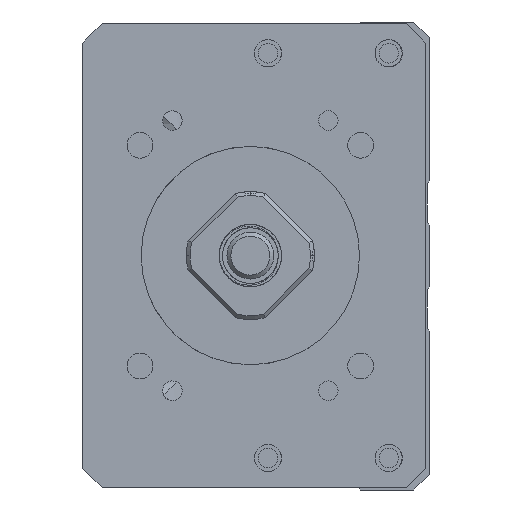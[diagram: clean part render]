
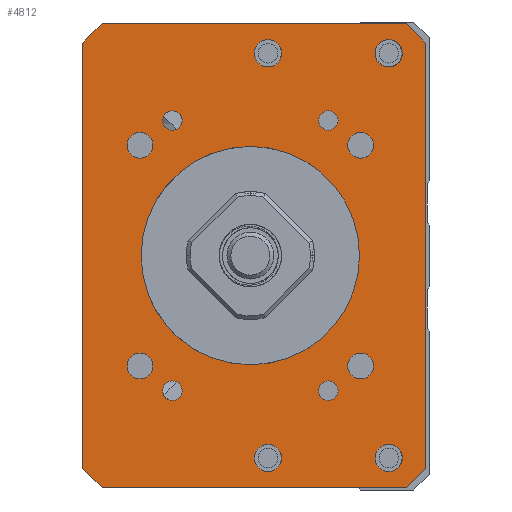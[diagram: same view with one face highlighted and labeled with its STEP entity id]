
A CAD part, left-side view. The second image highlights one B-rep face of the part: STEP entity #4812.
In plain terms, the highlighted planar face has unit normal (-1, 0, 0).
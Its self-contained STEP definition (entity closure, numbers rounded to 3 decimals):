
#3911=FACE_BOUND('',#6320,.T.);
#3912=FACE_BOUND('',#6321,.T.);
#3913=FACE_BOUND('',#6322,.T.);
#3914=FACE_BOUND('',#6323,.T.);
#3915=FACE_BOUND('',#6324,.T.);
#3916=FACE_BOUND('',#6325,.T.);
#3917=FACE_BOUND('',#6326,.T.);
#3918=FACE_BOUND('',#6327,.T.);
#3919=FACE_BOUND('',#6328,.T.);
#3920=FACE_BOUND('',#6329,.T.);
#3921=FACE_BOUND('',#6330,.T.);
#3922=FACE_BOUND('',#6331,.T.);
#3923=FACE_BOUND('',#6332,.T.);
#3924=FACE_BOUND('',#6333,.T.);
#4270=CIRCLE('',#13880,14.);
#4279=CIRCLE('',#13891,1.65);
#4280=CIRCLE('',#13892,1.65);
#4281=CIRCLE('',#13893,1.65);
#4282=CIRCLE('',#13894,1.65);
#4283=CIRCLE('',#13895,1.25);
#4284=CIRCLE('',#13896,1.75);
#4285=CIRCLE('',#13897,1.25);
#4286=CIRCLE('',#13898,1.75);
#4287=CIRCLE('',#13899,1.25);
#4288=CIRCLE('',#13900,1.75);
#4289=CIRCLE('',#13901,1.75);
#4290=CIRCLE('',#13902,1.25);
#4812=ADVANCED_FACE('',(#3911,#3912,#3913,#3914,#3915,#3916,#3917,#3918,
#3919,#3920,#3921,#3922,#3923,#3924),#5266,.F.);
#5266=PLANE('',#13903);
#6320=EDGE_LOOP('',(#8574));
#6321=EDGE_LOOP('',(#8575));
#6322=EDGE_LOOP('',(#8576));
#6323=EDGE_LOOP('',(#8577));
#6324=EDGE_LOOP('',(#8578));
#6325=EDGE_LOOP('',(#8579));
#6326=EDGE_LOOP('',(#8580));
#6327=EDGE_LOOP('',(#8581));
#6328=EDGE_LOOP('',(#8582));
#6329=EDGE_LOOP('',(#8583,#8584,#8585,#8586,#8587,#8588,#8589,#8590));
#6330=EDGE_LOOP('',(#8591));
#6331=EDGE_LOOP('',(#8592));
#6332=EDGE_LOOP('',(#8593));
#6333=EDGE_LOOP('',(#8594));
#8574=ORIENTED_EDGE('',*,*,#11225,.F.);
#8575=ORIENTED_EDGE('',*,*,#11226,.F.);
#8576=ORIENTED_EDGE('',*,*,#11227,.F.);
#8577=ORIENTED_EDGE('',*,*,#11228,.F.);
#8578=ORIENTED_EDGE('',*,*,#11229,.F.);
#8579=ORIENTED_EDGE('',*,*,#11230,.T.);
#8580=ORIENTED_EDGE('',*,*,#11231,.F.);
#8581=ORIENTED_EDGE('',*,*,#11232,.F.);
#8582=ORIENTED_EDGE('',*,*,#11233,.F.);
#8583=ORIENTED_EDGE('',*,*,#11222,.T.);
#8584=ORIENTED_EDGE('',*,*,#11234,.T.);
#8585=ORIENTED_EDGE('',*,*,#11235,.F.);
#8586=ORIENTED_EDGE('',*,*,#11236,.T.);
#8587=ORIENTED_EDGE('',*,*,#11237,.F.);
#8588=ORIENTED_EDGE('',*,*,#11238,.T.);
#8589=ORIENTED_EDGE('',*,*,#11239,.T.);
#8590=ORIENTED_EDGE('',*,*,#11240,.T.);
#8591=ORIENTED_EDGE('',*,*,#11241,.F.);
#8592=ORIENTED_EDGE('',*,*,#11242,.F.);
#8593=ORIENTED_EDGE('',*,*,#11243,.F.);
#8594=ORIENTED_EDGE('',*,*,#11202,.F.);
#9977=VERTEX_POINT('',#19575);
#9997=VERTEX_POINT('',#19635);
#9998=VERTEX_POINT('',#19637);
#10000=VERTEX_POINT('',#19643);
#10001=VERTEX_POINT('',#19645);
#10002=VERTEX_POINT('',#19647);
#10003=VERTEX_POINT('',#19649);
#10004=VERTEX_POINT('',#19651);
#10005=VERTEX_POINT('',#19653);
#10006=VERTEX_POINT('',#19655);
#10007=VERTEX_POINT('',#19657);
#10008=VERTEX_POINT('',#19659);
#10009=VERTEX_POINT('',#19661);
#10010=VERTEX_POINT('',#19663);
#10011=VERTEX_POINT('',#19665);
#10012=VERTEX_POINT('',#19667);
#10013=VERTEX_POINT('',#19669);
#10014=VERTEX_POINT('',#19671);
#10015=VERTEX_POINT('',#19674);
#10016=VERTEX_POINT('',#19676);
#10017=VERTEX_POINT('',#19678);
#11202=EDGE_CURVE('',#9977,#9977,#4270,.T.);
#11222=EDGE_CURVE('',#9998,#9997,#12258,.T.);
#11225=EDGE_CURVE('',#10000,#10000,#4279,.T.);
#11226=EDGE_CURVE('',#10001,#10001,#4280,.T.);
#11227=EDGE_CURVE('',#10002,#10002,#4281,.T.);
#11228=EDGE_CURVE('',#10003,#10003,#4282,.T.);
#11229=EDGE_CURVE('',#10004,#10004,#4283,.T.);
#11230=EDGE_CURVE('',#10005,#10005,#4284,.T.);
#11231=EDGE_CURVE('',#10006,#10006,#4285,.T.);
#11232=EDGE_CURVE('',#10007,#10007,#4286,.T.);
#11233=EDGE_CURVE('',#10008,#10008,#4287,.T.);
#11234=EDGE_CURVE('',#9997,#10009,#12260,.T.);
#11235=EDGE_CURVE('',#10010,#10009,#12261,.T.);
#11236=EDGE_CURVE('',#10010,#10011,#12262,.T.);
#11237=EDGE_CURVE('',#10012,#10011,#12263,.T.);
#11238=EDGE_CURVE('',#10012,#10013,#12264,.T.);
#11239=EDGE_CURVE('',#10013,#10014,#12265,.T.);
#11240=EDGE_CURVE('',#10014,#9998,#12266,.T.);
#11241=EDGE_CURVE('',#10015,#10015,#4288,.T.);
#11242=EDGE_CURVE('',#10016,#10016,#4289,.T.);
#11243=EDGE_CURVE('',#10017,#10017,#4290,.T.);
#12258=LINE('',#19636,#13079);
#12260=LINE('',#19660,#13081);
#12261=LINE('',#19662,#13082);
#12262=LINE('',#19664,#13083);
#12263=LINE('',#19666,#13084);
#12264=LINE('',#19668,#13085);
#12265=LINE('',#19670,#13086);
#12266=LINE('',#19672,#13087);
#13079=VECTOR('',#16210,1.);
#13081=VECTOR('',#16234,1.);
#13082=VECTOR('',#16235,1.);
#13083=VECTOR('',#16236,1.);
#13084=VECTOR('',#16237,1.);
#13085=VECTOR('',#16238,1.);
#13086=VECTOR('',#16239,1.);
#13087=VECTOR('',#16240,1.);
#13880=AXIS2_PLACEMENT_3D('',#19574,#16184,#16185);
#13891=AXIS2_PLACEMENT_3D('',#19642,#16216,#16217);
#13892=AXIS2_PLACEMENT_3D('',#19644,#16218,#16219);
#13893=AXIS2_PLACEMENT_3D('',#19646,#16220,#16221);
#13894=AXIS2_PLACEMENT_3D('',#19648,#16222,#16223);
#13895=AXIS2_PLACEMENT_3D('',#19650,#16224,#16225);
#13896=AXIS2_PLACEMENT_3D('',#19652,#16226,#16227);
#13897=AXIS2_PLACEMENT_3D('',#19654,#16228,#16229);
#13898=AXIS2_PLACEMENT_3D('',#19656,#16230,#16231);
#13899=AXIS2_PLACEMENT_3D('',#19658,#16232,#16233);
#13900=AXIS2_PLACEMENT_3D('',#19673,#16241,#16242);
#13901=AXIS2_PLACEMENT_3D('',#19675,#16243,#16244);
#13902=AXIS2_PLACEMENT_3D('',#19677,#16245,#16246);
#13903=AXIS2_PLACEMENT_3D('',#19679,#16247,#16248);
#16184=DIRECTION('',(-1.,0.,0.));
#16185=DIRECTION('',(0.,1.,0.));
#16210=DIRECTION('',(0.,0.,-1.));
#16216=DIRECTION('',(-1.,0.,0.));
#16217=DIRECTION('',(0.,0.,1.));
#16218=DIRECTION('',(-1.,0.,0.));
#16219=DIRECTION('',(0.,0.,1.));
#16220=DIRECTION('',(-1.,0.,0.));
#16221=DIRECTION('',(0.,0.,1.));
#16222=DIRECTION('',(-1.,0.,0.));
#16223=DIRECTION('',(0.,0.,1.));
#16224=DIRECTION('',(-1.,0.,0.));
#16225=DIRECTION('',(0.,1.,0.));
#16226=DIRECTION('',(1.,0.,0.));
#16227=DIRECTION('',(0.,0.,1.));
#16228=DIRECTION('',(-1.,0.,0.));
#16229=DIRECTION('',(0.,1.,0.));
#16230=DIRECTION('',(-1.,0.,0.));
#16231=DIRECTION('',(0.,0.,1.));
#16232=DIRECTION('',(-1.,0.,0.));
#16233=DIRECTION('',(0.,1.,0.));
#16234=DIRECTION('',(0.,-0.707,-0.707));
#16235=DIRECTION('',(0.,1.,0.));
#16236=DIRECTION('',(0.,-0.707,0.707));
#16237=DIRECTION('',(0.,0.,-1.));
#16238=DIRECTION('',(0.,0.707,0.707));
#16239=DIRECTION('',(0.,1.,0.));
#16240=DIRECTION('',(0.,0.707,-0.707));
#16241=DIRECTION('',(-1.,0.,0.));
#16242=DIRECTION('',(0.,0.,1.));
#16243=DIRECTION('',(-1.,0.,0.));
#16244=DIRECTION('',(0.,0.,1.));
#16245=DIRECTION('',(-1.,0.,0.));
#16246=DIRECTION('',(0.,1.,0.));
#16247=DIRECTION('',(1.,0.,0.));
#16248=DIRECTION('',(0.,1.,0.));
#19574=CARTESIAN_POINT('',(-211.,0.,-400.));
#19575=CARTESIAN_POINT('',(-211.,14.,-400.));
#19635=CARTESIAN_POINT('',(-211.,21.499,-427.25));
#19636=CARTESIAN_POINT('',(-211.,21.499,-370.25));
#19637=CARTESIAN_POINT('',(-211.,21.499,-372.75));
#19642=CARTESIAN_POINT('',(-211.,14.142,-385.858));
#19643=CARTESIAN_POINT('',(-211.,14.142,-384.208));
#19644=CARTESIAN_POINT('',(-211.,-14.142,-385.858));
#19645=CARTESIAN_POINT('',(-211.,-14.142,-384.208));
#19646=CARTESIAN_POINT('',(-211.,14.142,-414.142));
#19647=CARTESIAN_POINT('',(-211.,14.142,-412.492));
#19648=CARTESIAN_POINT('',(-211.,-14.142,-414.142));
#19649=CARTESIAN_POINT('',(-211.,-14.142,-412.492));
#19650=CARTESIAN_POINT('',(-211.,-10.,-417.321));
#19651=CARTESIAN_POINT('',(-211.,-8.75,-417.321));
#19652=CARTESIAN_POINT('',(-211.,-2.25,-425.936));
#19653=CARTESIAN_POINT('',(-211.,-2.25,-424.186));
#19654=CARTESIAN_POINT('',(-211.,10.,-382.679));
#19655=CARTESIAN_POINT('',(-211.,11.25,-382.679));
#19656=CARTESIAN_POINT('',(-211.,-2.25,-374.064));
#19657=CARTESIAN_POINT('',(-211.,-2.25,-372.314));
#19658=CARTESIAN_POINT('',(-211.,10.,-417.321));
#19659=CARTESIAN_POINT('',(-211.,11.25,-417.321));
#19660=CARTESIAN_POINT('',(-211.,18.999,-429.75));
#19661=CARTESIAN_POINT('',(-211.,18.999,-429.75));
#19662=CARTESIAN_POINT('',(-211.,-22.501,-429.75));
#19663=CARTESIAN_POINT('',(-211.,-20.001,-429.75));
#19664=CARTESIAN_POINT('',(-211.,-22.501,-427.25));
#19665=CARTESIAN_POINT('',(-211.,-22.501,-427.25));
#19666=CARTESIAN_POINT('',(-211.,-22.501,-370.25));
#19667=CARTESIAN_POINT('',(-211.,-22.501,-372.75));
#19668=CARTESIAN_POINT('',(-211.,-22.501,-372.75));
#19669=CARTESIAN_POINT('',(-211.,-20.001,-370.25));
#19670=CARTESIAN_POINT('',(-211.,-22.501,-370.25));
#19671=CARTESIAN_POINT('',(-211.,18.999,-370.25));
#19672=CARTESIAN_POINT('',(-211.,18.999,-370.25));
#19673=CARTESIAN_POINT('',(-211.,-17.75,-374.064));
#19674=CARTESIAN_POINT('',(-211.,-17.75,-372.314));
#19675=CARTESIAN_POINT('',(-211.,-17.75,-425.936));
#19676=CARTESIAN_POINT('',(-211.,-17.75,-424.186));
#19677=CARTESIAN_POINT('',(-211.,-10.,-382.679));
#19678=CARTESIAN_POINT('',(-211.,-8.75,-382.679));
#19679=CARTESIAN_POINT('',(-211.,-22.501,-370.25));
